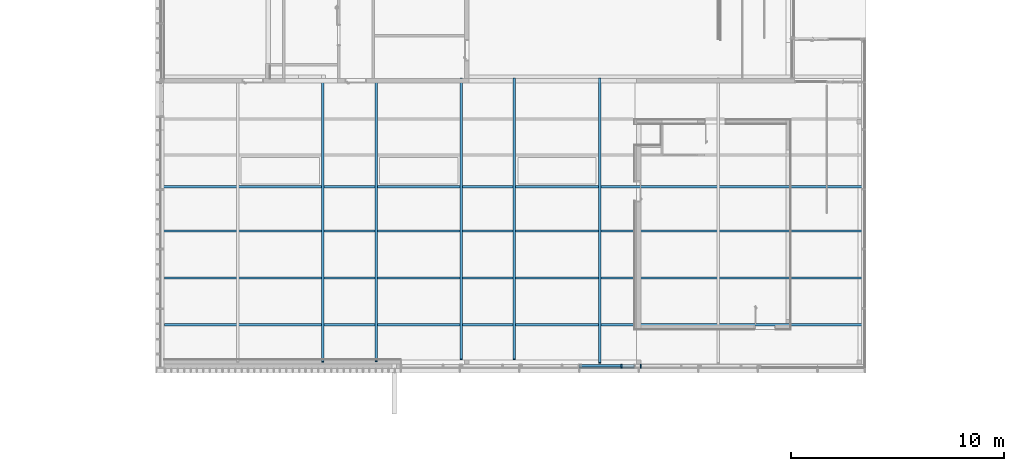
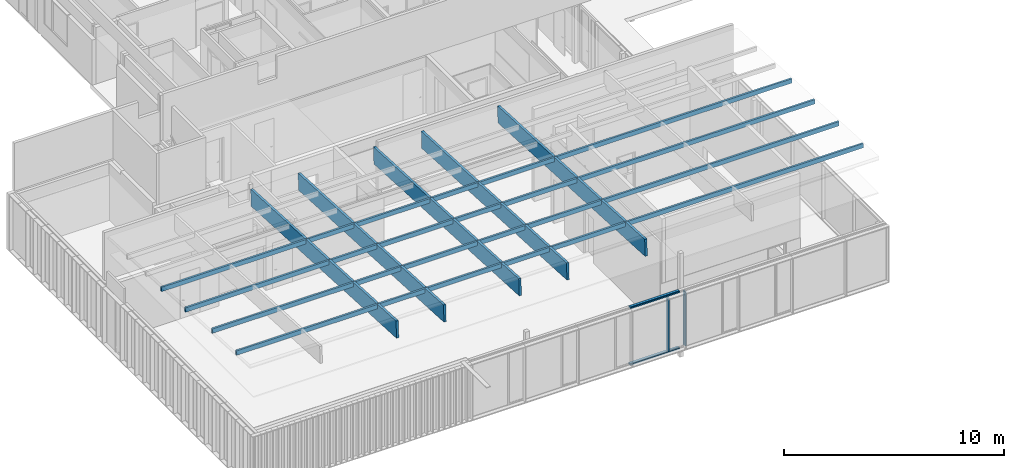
# One storey, part 5 of 240: 9 beams, 4 members, 1 element without a shape of its own.
"""IFC2X3 building model written with IfcOpenShell, lengths in centimetres."""

from ifc_helpers import new_model, entity, si_unit, converted_unit, derived_unit, direction, frame, frame_2d, origin, origin_2d_with_axis, place, context, subcontext, project, spatial, polyline, rectangle, outline, extrude, source, transform, mapped, material, type_object, type_shapes, element, aggregate, save


model = new_model("IFC2X3")

# Units and contexts
model_context = context("Model", 3, precision=0.001, world=origin(), true_north=direction((6.12303176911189e-17, 1.0)))
body_context = subcontext(model_context, "Body", "Model", "MODEL_VIEW")
ifc_project = project(units=[si_unit("LENGTHUNIT", "METRE", prefix="CENTI"), si_unit("AREAUNIT", "SQUARE_METRE"), si_unit("VOLUMEUNIT", "CUBIC_METRE"), converted_unit("PLANEANGLEUNIT", "DEGREE", entity("IfcRatioMeasure", 0.0174532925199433), si_unit("PLANEANGLEUNIT", "RADIAN"), dimensions=[0, 0, 0, 0, 0, 0, 0]), si_unit("MASSUNIT", "GRAM", prefix="KILO"), derived_unit("MASSDENSITYUNIT", [(si_unit("MASSUNIT", "GRAM", prefix="KILO"), 1), (si_unit("LENGTHUNIT", "METRE"), -3)]), si_unit("TIMEUNIT", "SECOND"), si_unit("FREQUENCYUNIT", "HERTZ"), si_unit("THERMODYNAMICTEMPERATUREUNIT", "DEGREE_CELSIUS"), derived_unit("THERMALTRANSMITTANCEUNIT", [(si_unit("MASSUNIT", "GRAM", prefix="KILO"), 1), (si_unit("THERMODYNAMICTEMPERATUREUNIT", "KELVIN"), -1), (si_unit("TIMEUNIT", "SECOND"), -3)]), derived_unit("VOLUMETRICFLOWRATEUNIT", [(si_unit("LENGTHUNIT", "METRE"), 3), (si_unit("TIMEUNIT", "SECOND"), -1)]), si_unit("ELECTRICCURRENTUNIT", "AMPERE"), si_unit("ELECTRICVOLTAGEUNIT", "VOLT"), si_unit("POWERUNIT", "WATT"), si_unit("FORCEUNIT", "NEWTON", prefix="KILO"), si_unit("ILLUMINANCEUNIT", "LUX"), si_unit("LUMINOUSFLUXUNIT", "LUMEN"), si_unit("LUMINOUSINTENSITYUNIT", "CANDELA"), derived_unit("USERDEFINED", [(si_unit("MASSUNIT", "GRAM", prefix="KILO"), -1), (si_unit("LENGTHUNIT", "METRE"), -2), (si_unit("TIMEUNIT", "SECOND"), 3), (si_unit("LUMINOUSFLUXUNIT", "LUMEN"), 1)]), derived_unit("LINEARVELOCITYUNIT", [(si_unit("LENGTHUNIT", "METRE"), 1), (si_unit("TIMEUNIT", "SECOND"), -1)]), si_unit("PRESSUREUNIT", "PASCAL"), derived_unit("USERDEFINED", [(si_unit("LENGTHUNIT", "METRE"), -2), (si_unit("MASSUNIT", "GRAM", prefix="KILO"), 1), (si_unit("TIMEUNIT", "SECOND"), -2)])], contexts=[model_context])

# Site, building, storey
site_placement = place(None, frame((-2781.94577612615, 7442.24238424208, 0.0)))
site = spatial("IfcSite", under=ifc_project, at=site_placement, Name="Default", CompositionType="ELEMENT")
building_placement = place(site_placement, origin())
building = spatial("IfcBuilding", under=site, at=building_placement, CompositionType="ELEMENT")
storey_placement = place(building_placement, origin())
storey = spatial("IfcBuildingStorey", under=building, at=storey_placement, Name="N00 - COO", CompositionType="ELEMENT", Elevation=0.0)

# Curtain wall, members
curtain_wall_type = type_object("IfcCurtainWallType", Name="Mur-rideau:07 - mur rideau trame 280 cm", PredefinedType="NOTDEFINED")
curtain_wall_placement = place(building_placement, origin())
curtain_wall = element("IfcCurtainWall", 1, at=curtain_wall_placement, inside=storey, type_object=curtain_wall_type, Name="Mur-rideau:07 - mur rideau trame 280 cm", ObjectType="Mur-rideau:07 - mur rideau trame 280 cm")
ifc_material_1 = material(Name="Aluminium")
member_type_1 = type_object("IfcMemberType", Name="150 x 25mm Détails", PredefinedType="MEMBER")
shared_shape_1 = source(origin(), body_context, "Body", "SweptSolid", [
    extrude(outline(polyline([(-5.66666666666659, -3.25), (-3.66666666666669, -3.25), (-3.66666666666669, -0.868749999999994), (-0.166666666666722, -0.868749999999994), (-0.166666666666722, -3.25000000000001), (13.3333333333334, -3.24999999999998), (13.3333333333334, 3.25000000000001), (-0.166666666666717, 3.25000000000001), (-0.166666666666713, 0.868749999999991), (-3.66666666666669, 0.868749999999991), (-3.66666666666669, 3.24999999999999), (-5.66666666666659, 3.24999999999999), (-5.66666666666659, -3.25)])), frame((-3.24999999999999, -1.96666666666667, -260.0), z_axis=(0.0, 0.0, 1.0), x_axis=(0.0, -1.0, 0.0)), (0.0, 0.0, 1.0), 260.000000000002),
])
type_shapes(member_type_1, [shared_shape_1])
member_1_placement = place(building_placement, frame((-9894.81674610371, -5562.80173441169, 0.0), z_axis=(-1.0, 0.0, 0.0), x_axis=(0.0, 0.0, -1.0)))
member_1 = element("IfcMember", 2, at=member_1_placement, type_object=member_type_1, material=ifc_material_1, Name="Meneau rectangulaire:150 x 25mm Détails", ObjectType="Meneau rectangulaire:150 x 25mm Détails", context=body_context, shape_type="MappedRepresentation", body=[
    mapped(shared_shape_1, transform((0.0, 0.0, 0.0), scale=1.0)),
])
member_type_2 = type_object("IfcMemberType", Name="150 x 25mm Détails", PredefinedType="MEMBER")
shared_shape_2 = source(origin(), body_context, "Body", "SweptSolid", [
    extrude(outline(polyline([(-5.6666666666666, -3.25), (-3.66666666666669, -3.25), (-3.66666666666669, -0.868749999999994), (-0.166666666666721, -0.868749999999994), (-0.166666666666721, -3.25000000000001), (13.3333333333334, -3.24999999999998), (13.3333333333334, 3.25000000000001), (-0.166666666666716, 3.25000000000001), (-0.166666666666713, 0.868749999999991), (-3.66666666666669, 0.868749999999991), (-3.66666666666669, 3.24999999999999), (-5.6666666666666, 3.24999999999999), (-5.6666666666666, -3.25)])), frame((-3.24999999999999, -1.96666666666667, -299.5), z_axis=(0.0, 0.0, 1.0), x_axis=(0.0, -1.0, 0.0)), (0.0, 0.0, 1.0), 299.5),
])
type_shapes(member_type_2, [shared_shape_2])
member_2_placement = place(building_placement, frame((-9608.06674610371, -5562.80173441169, 306.0), z_axis=(0.0, 0.0, 1.0), x_axis=(-1.0, 0.0, 0.0)))
member_2 = element("IfcMember", 3, at=member_2_placement, type_object=member_type_2, material=ifc_material_1, Name="Meneau rectangulaire:150 x 25mm Détails", ObjectType="Meneau rectangulaire:150 x 25mm Détails", context=body_context, shape_type="MappedRepresentation", body=[
    mapped(shared_shape_2, transform((0.0, 0.0, 0.0), scale=1.0)),
])
member_type_3 = type_object("IfcMemberType", Name="150 x 25mm Détails", PredefinedType="MEMBER")
shared_shape_3 = source(origin(), body_context, "Body", "SweptSolid", [
    extrude(outline(polyline([(-5.66666666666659, -3.24999999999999), (-3.66666666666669, -3.24999999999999), (-3.66666666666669, -0.868749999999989), (-0.166666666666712, -0.868749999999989), (-0.166666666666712, -3.25000000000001), (13.3333333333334, -3.25000000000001), (13.3333333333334, 3.24999999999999), (-0.166666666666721, 3.24999999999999), (-0.166666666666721, 0.868749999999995), (-3.66666666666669, 0.868749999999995), (-3.66666666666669, 3.25), (-5.66666666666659, 3.25), (-5.66666666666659, -3.24999999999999)])), frame((-3.24999999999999, -1.96666666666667, -299.5), z_axis=(0.0, 0.0, 1.0), x_axis=(0.0, -1.0, 0.0)), (0.0, 0.0, 1.0), 299.5),
])
type_shapes(member_type_3, [shared_shape_3])
member_3_placement = place(building_placement, frame((-9691.56674610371, -5562.80173441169, 6.49999999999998), z_axis=(0.0, 0.0, -1.0), x_axis=(1.0, 0.0, 0.0)))
member_3 = element("IfcMember", 4, at=member_3_placement, type_object=member_type_3, material=ifc_material_1, Name="Meneau rectangulaire:150 x 25mm Détails", ObjectType="Meneau rectangulaire:150 x 25mm Détails", context=body_context, shape_type="MappedRepresentation", body=[
    mapped(shared_shape_3, transform((0.0, 0.0, 0.0), scale=1.0)),
])
member_type_4 = type_object("IfcMemberType", Name="150 x 25mm Détails", PredefinedType="MEMBER")
shared_shape_4 = source(origin(), body_context, "Body", "SweptSolid", [
    extrude(outline(polyline([(-5.6666666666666, -3.24999999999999), (-3.66666666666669, -3.24999999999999), (-3.66666666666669, -0.868749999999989), (-0.166666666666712, -0.868749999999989), (-0.166666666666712, -3.25000000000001), (13.3333333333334, -3.25000000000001), (13.3333333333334, 3.24999999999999), (-0.16666666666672, 3.24999999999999), (-0.16666666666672, 0.868749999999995), (-3.66666666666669, 0.868749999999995), (-3.66666666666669, 3.25), (-5.6666666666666, 3.25), (-5.6666666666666, -3.24999999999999)])), frame((-3.24999999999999, -1.96666666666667, -260.0), z_axis=(0.0, 0.0, 1.0), x_axis=(0.0, -1.0, 0.0)), (0.0, 0.0, 1.0), 260.000000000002),
])
type_shapes(member_type_4, [shared_shape_4])
member_4_placement = place(building_placement, frame((-9634.81674610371, -5562.80173441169, 319.50860145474), z_axis=(1.0, 0.0, 0.0), x_axis=(0.0, 0.0, 1.0)))
member_4 = element("IfcMember", 5, at=member_4_placement, type_object=member_type_4, material=ifc_material_1, Name="Meneau rectangulaire:150 x 25mm Détails", ObjectType="Meneau rectangulaire:150 x 25mm Détails", context=body_context, shape_type="MappedRepresentation", body=[
    mapped(shared_shape_4, transform((0.0, 0.0, 0.0), scale=1.0)),
])
aggregate(curtain_wall, [member_1, member_2, member_3, member_4])

# Beams
ifc_material_2 = material(Name="Bois - Bois de construction de dimensions courantes")
beam_type_1 = type_object("IfcBeamType", Name="SR-12x92", PredefinedType="BEAM")
beam_1_placement = place(storey_placement, frame((-11098.3505746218, -5534.6581852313, 649.402302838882), z_axis=(0.0, 0.0523359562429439, 0.998629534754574), x_axis=(0.0, 0.998629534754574, -0.0523359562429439)))
element("IfcBeam", 6, at=beam_1_placement, inside=storey, type_object=beam_type_1, material=ifc_material_2, Name="Poutre - Bois de construction de dimensions courantes:SR-12x92", ObjectType="Poutre - Bois de construction de dimensions courantes:SR-12x92", context=body_context, shape_type="SweptSolid", body=[
    extrude(rectangle(XDim=92.0, YDim=12.0000000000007, at=frame_2d((5.32907051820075e-14, 0.0), x_axis=(1.0, 0.0))), frame((0.000730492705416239, 0.0, -46.0), z_axis=(1.0, 0.0, 0.0), x_axis=(0.0, 0.0, -1.0)), (0.0, 0.0, 1.0), 1321.0),
])
beam_2_placement = place(storey_placement, frame((-10848.3505746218, -5531.92263653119, 649.258938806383), z_axis=(0.0, 0.0523359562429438, 0.998629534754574), x_axis=(0.0, 0.998629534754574, -0.0523359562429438)))
element("IfcBeam", 7, at=beam_2_placement, inside=storey, type_object=beam_type_1, material=ifc_material_2, Name="Poutre - Bois de construction de dimensions courantes:SR-12x92", ObjectType="Poutre - Bois de construction de dimensions courantes:SR-12x92", context=body_context, shape_type="SweptSolid", body=[
    extrude(rectangle(XDim=92.0, YDim=12.0000000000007, at=frame_2d((5.32907051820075e-14, 1.73283609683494e-12), x_axis=(1.0, 0.0))), frame((0.000730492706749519, 0.0, -46.0), z_axis=(1.0, 0.0, 0.0), x_axis=(0.0, 0.0, -1.0)), (0.0, 0.0, 1.0), 1321.0),
])
beam_3_placement = place(storey_placement, frame((-10448.3505746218, -5521.92311834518, 648.734886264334), z_axis=(0.0, 0.0523359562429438, 0.998629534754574), x_axis=(0.0, 0.998629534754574, -0.0523359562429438)))
element("IfcBeam", 8, at=beam_3_placement, inside=storey, type_object=beam_type_1, material=ifc_material_2, Name="Poutre - Bois de construction de dimensions courantes:SR-12x92", ObjectType="Poutre - Bois de construction de dimensions courantes:SR-12x92", context=body_context, shape_type="SweptSolid", body=[
    extrude(rectangle(XDim=92.0000000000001, YDim=12.0000000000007, at=frame_2d((-5.32907051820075e-14, 0.0), x_axis=(1.0, 0.0))), frame((0.000730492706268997, 0.0, -46.0), z_axis=(1.0, 0.0, 0.0), x_axis=(0.0, 0.0, -1.0)), (0.0, 0.0, 1.0), 1321.0),
])
beam_4_placement = place(storey_placement, frame((-10198.3505746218, -5521.92311834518, 648.734886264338), z_axis=(0.0, 0.0523359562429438, 0.998629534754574), x_axis=(0.0, 0.998629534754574, -0.0523359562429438)))
element("IfcBeam", 9, at=beam_4_placement, inside=storey, type_object=beam_type_1, material=ifc_material_2, Name="Poutre - Bois de construction de dimensions courantes:SR-12x92", ObjectType="Poutre - Bois de construction de dimensions courantes:SR-12x92", context=body_context, shape_type="SweptSolid", body=[
    extrude(rectangle(XDim=92.0000000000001, YDim=12.0000000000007, at=frame_2d((-5.32907051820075e-14, 0.0), x_axis=(1.0, 0.0))), frame((0.000730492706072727, 0.0, -46.0), z_axis=(1.0, 0.0, 0.0), x_axis=(0.0, 0.0, -1.0)), (0.0, 0.0, 1.0), 1321.0),
])
beam_5_placement = place(storey_placement, frame((-9798.35057462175, -5521.92311834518, 648.734886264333), z_axis=(0.0, 0.0523359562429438, 0.998629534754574), x_axis=(0.0, 0.998629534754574, -0.0523359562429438)))
element("IfcBeam", 10, at=beam_5_placement, inside=storey, type_object=beam_type_1, material=ifc_material_2, Name="Poutre - Bois de construction de dimensions courantes:SR-12x92", ObjectType="Poutre - Bois de construction de dimensions courantes:SR-12x92", context=body_context, shape_type="SweptSolid", body=[
    extrude(rectangle(XDim=92.0, YDim=12.0000000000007, at=origin_2d_with_axis()), frame((-16.8622315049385, 0.0, -46.0), z_axis=(1.0, 0.0, 0.0), x_axis=(0.0, 0.0, -1.0)), (0.0, 0.0, 1.0), 1337.86296199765),
])
beam_type_2 = type_object("IfcBeamType", Name="SR-10x24", PredefinedType="BEAM")
beam_6_placement = place(storey_placement, frame((-11842.1026518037, -5361.30559167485, 640.317278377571)))
element("IfcBeam", 11, at=beam_6_placement, inside=storey, type_object=beam_type_2, material=ifc_material_2, Name="Poutre - Bois de construction de dimensions courantes:SR-10x24", ObjectType="Poutre - Bois de construction de dimensions courantes:SR-10x24", context=body_context, shape_type="SweptSolid", body=[
    extrude(rectangle(XDim=24.0, YDim=10.0000000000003, at=frame_2d((0.0, 9.9626973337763e-12), x_axis=(1.0, 0.0))), frame((0.00763545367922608, 0.0, -12.0), z_axis=(1.0, 0.0, 0.0), x_axis=(0.0, 0.0, -1.0)), (0.0, 0.0, 1.0), 3283.1),
])
beam_7_placement = place(storey_placement, frame((-11842.1026518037, -5141.60709402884, 628.803368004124)))
element("IfcBeam", 12, at=beam_7_placement, inside=storey, type_object=beam_type_2, material=ifc_material_2, Name="Poutre - Bois de construction de dimensions courantes:SR-10x24", ObjectType="Poutre - Bois de construction de dimensions courantes:SR-10x24", context=body_context, shape_type="SweptSolid", body=[
    extrude(rectangle(XDim=24.0, YDim=10.0000000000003, at=frame_2d((0.0, 9.9626973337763e-12), x_axis=(1.0, 0.0))), frame((0.00763545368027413, 0.0, -12.0), z_axis=(1.0, 0.0, 0.0), x_axis=(0.0, 0.0, -1.0)), (0.0, 0.0, 1.0), 3283.1),
])
beam_8_placement = place(storey_placement, frame((-11855.3563818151, -4921.90859638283, 617.289457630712)))
element("IfcBeam", 13, at=beam_8_placement, inside=storey, type_object=beam_type_2, material=ifc_material_2, Name="Poutre - Bois de construction de dimensions courantes:SR-10x24", ObjectType="Poutre - Bois de construction de dimensions courantes:SR-10x24", context=body_context, shape_type="SweptSolid", body=[
    extrude(rectangle(XDim=24.0, YDim=10.0000000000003, at=frame_2d((0.0, 9.9626973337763e-12), x_axis=(1.0, 0.0))), frame((0.0345004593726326, 0.0, -12.0), z_axis=(1.0, 0.0, 0.0), x_axis=(0.0, 0.0, -1.0)), (0.0, 0.0, 1.0), 3296.3),
])
beam_9_placement = place(storey_placement, frame((-11860.6505746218, -4713.48097835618, 606.471408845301)))
element("IfcBeam", 14, at=beam_9_placement, inside=storey, type_object=beam_type_2, material=ifc_material_2, Name="Poutre - Bois de construction de dimensions courantes:SR-10x24", ObjectType="Poutre - Bois de construction de dimensions courantes:SR-10x24", context=body_context, shape_type="SweptSolid", body=[
    extrude(rectangle(XDim=24.0, YDim=10.0000000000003, at=frame_2d((0.0, 9.9626973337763e-12), x_axis=(1.0, 0.0))), frame((0.0315968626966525, 0.0, -12.0), z_axis=(1.0, 0.0, 0.0), x_axis=(0.0, 0.0, -1.0)), (0.0, 0.0, 1.0), 3301.6),
])

save(model, "model.ifc")
